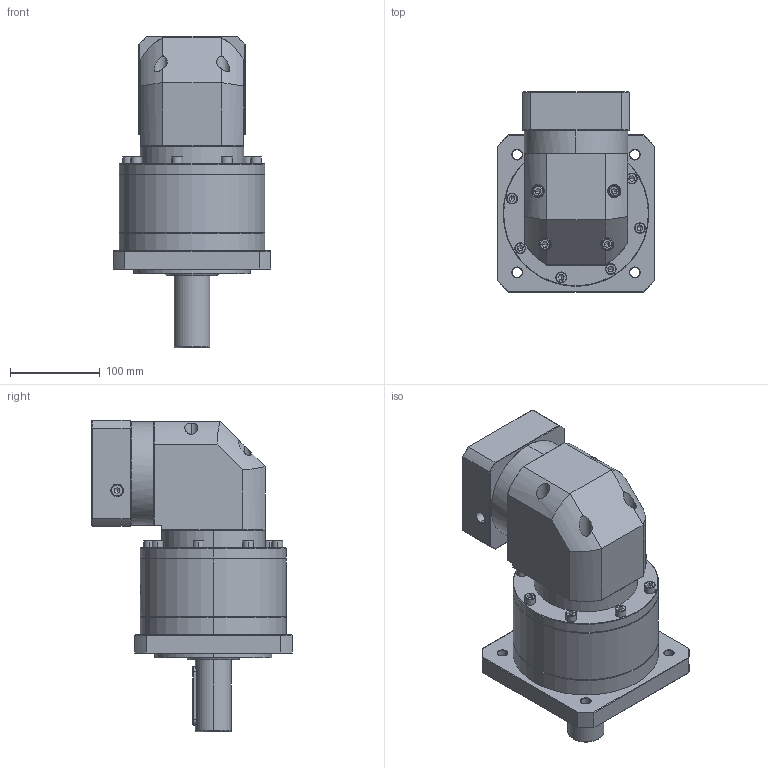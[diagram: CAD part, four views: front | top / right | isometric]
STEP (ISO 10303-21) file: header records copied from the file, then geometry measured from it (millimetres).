
FILE_DESCRIPTION (( 'STEP AP214' ), '1' );
FILE_NAME ('ZFR160A-D40-L2-P2-24-95-130-M8.step', '2023-09-03T09:41:02', ( '' ), ( '' ), 'SwSTEP 2.0', 'SolidWorks 2016', '' );
FILE_SCHEMA (( 'AUTOMOTIVE_DESIGN' ));
Length unit declared in the file: millimetre
Products named in the file (1): ZFR160A-D40-L2-P2-24-95-130-M8
Bounding box: 175 x 222.4 x 346.2 mm (x, y, z)
Volume: 5024595.6 mm3; surface area: 343573.2 mm2
Topology: 6 solids, 6 shells, 2472 faces, 6490 edges, 4145 vertices
Faces by surface type: plane 1146, cylinder 499, bspline 410, cone 371, torus 46
Entity records: 133158 total; most frequent: CARTESIAN_POINT 50343, ORIENTED_EDGE 12872, DIRECTION 9803, EDGE_CURVE 6436, VERTEX_POINT 4145, VECTOR 3443, LINE 3443, AXIS2_PLACEMENT_3D 3180
